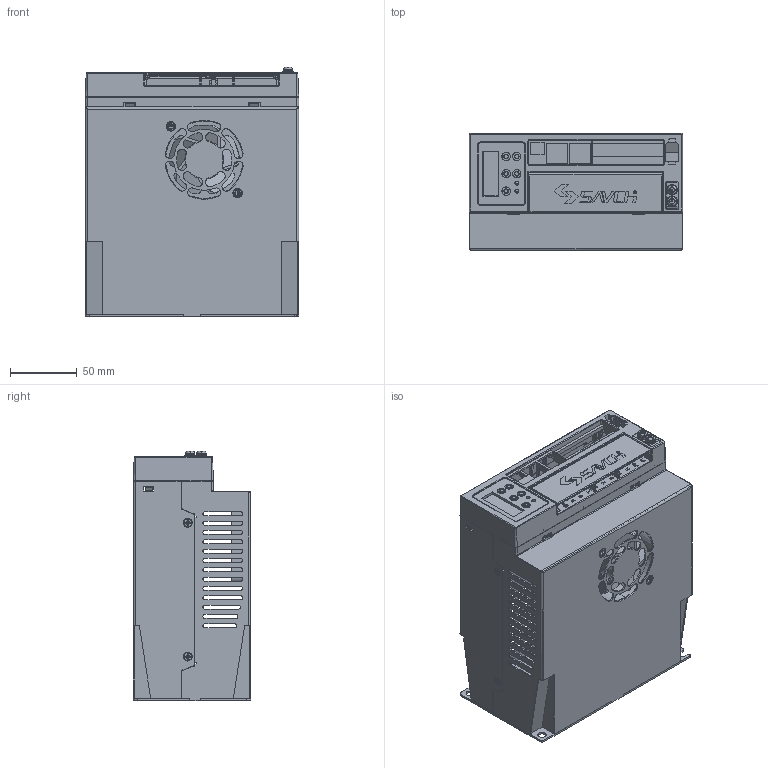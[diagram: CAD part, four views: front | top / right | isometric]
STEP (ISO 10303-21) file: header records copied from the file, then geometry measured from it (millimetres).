
FILE_DESCRIPTION((''),'2;1');
FILE_NAME('2T1_5G-2T2_0G4T0_75G-4T1_5G_ASM','2023-08-02T17:15:51',('ZhangJF'),(''),'CREO PARAMETRIC BY PTC INC, 2019010','CREO PARAMETRIC BY PTC INC, 2019010','');
FILE_SCHEMA(('CONFIG_CONTROL_DESIGN','SHAPE_APPEARANCE_LAYERS_GROUPS'));
Products named in the file (27): XIANSHIBAN_2; SHANGGAI_89; ZHUANGSHIGAI_2; CL2-A-GONGYONGJIAN_ASM_90_ASM; ZUOCE-HANJIAN1_48; ZUOCE-HANJIAN2_13; ZUOCE-HANJIAN3_6; ZUOCE-HANJIAN4_6; ZUOCE-HANJIAN5-1_13; ZUOCE-HANJIAN5-2_21; ZUOCE-HANJIAN5_ASM_27_ASM; ZUOCEGAI_ASM_44_ASM; YOUCE-HANJIAN1_43; YOUCE-HANJIAN2_7; YOUCE-HANJIAN3_4; YOUCE-HANJIAN4_7; YOUCEGAI_ASM_48_ASM; PINGTOULUOSI_14; 50A-FENGSHANG_83_1; 50A-FENGSHANG_83_2; 50A-FENGSHANG_83_ASM; PINGTOU-ST5_10; YUANTOULUOSI_1_1; YUANTOULUOSI_1_2; YUANTOULUOSI_1_ASM; CL2-B_ASM_194_ASM; 2T1_5G-2T2_0G4T0_75G-4T1_5G_ASM
Assembly tree (32 placements, depth 5):
  2T1_5G-2T2_0G4T0_75G-4T1_5G_ASM
    CL2-B_ASM_194_ASM
      CL2-A-GONGYONGJIAN_ASM_90_ASM
        XIANSHIBAN_2
        SHANGGAI_89
        ZHUANGSHIGAI_2
      ZUOCEGAI_ASM_44_ASM
        ZUOCE-HANJIAN1_48
        ZUOCE-HANJIAN2_13
        ZUOCE-HANJIAN3_6
        ZUOCE-HANJIAN4_6
        ZUOCE-HANJIAN5_ASM_27_ASM
          ZUOCE-HANJIAN5-1_13
          ZUOCE-HANJIAN5-2_21
      YOUCEGAI_ASM_48_ASM
        YOUCE-HANJIAN1_43
        YOUCE-HANJIAN2_7
        YOUCE-HANJIAN3_4
        YOUCE-HANJIAN4_7
      PINGTOULUOSI_14  x5
      50A-FENGSHANG_83_ASM
        50A-FENGSHANG_83_1
        50A-FENGSHANG_83_2
      PINGTOU-ST5_10  x2
      YUANTOULUOSI_1_ASM  x2
        YUANTOULUOSI_1_1
        YUANTOULUOSI_1_2
Bounding box: 160 x 88 x 187.1 mm (x, y, z)
Volume: 168538.7 mm3; surface area: 268018.5 mm2
Topology: 26 solids, 26 shells, 2545 faces, 7741 edges, 5255 vertices
Faces by surface type: plane 1690, cylinder 602, extrusion 81, torus 63, cone 61, bspline 36, sphere 12
Entity records: 87118 total; most frequent: CARTESIAN_POINT 19223, ORIENTED_EDGE 14534, DIRECTION 13360, EDGE_CURVE 7267, VECTOR 5176, LINE 5095, VERTEX_POINT 4941, AXIS2_PLACEMENT_3D 4092
